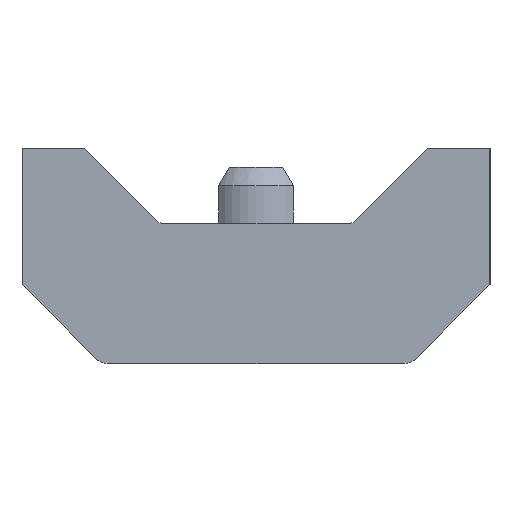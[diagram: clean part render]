
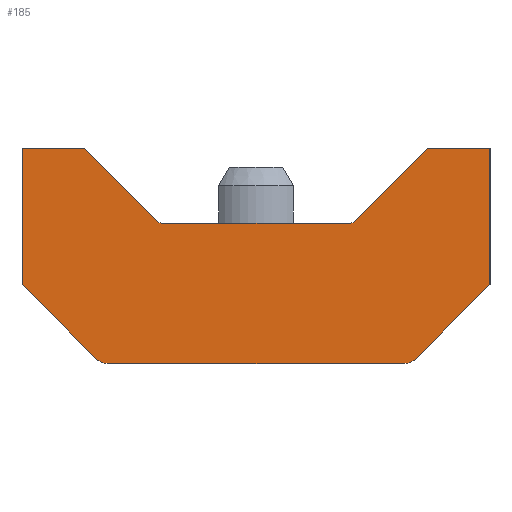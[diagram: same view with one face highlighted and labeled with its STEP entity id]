
A CAD part, left-side view. The second image highlights one B-rep face of the part: STEP entity #185.
In plain terms, the highlighted planar face has unit normal (-1, 0, 0).
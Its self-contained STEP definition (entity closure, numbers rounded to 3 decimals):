
#185=ADVANCED_FACE('Solid.1',(#385),#386,.F.);
#385=FACE_OUTER_BOUND('',#594,.T.);
#386=PLANE('',#595);
#594=EDGE_LOOP('',(#1056,#1057,#1058,#1059,#1060,#1061,#1062,#1063,#1064,#1065,#1066,#1067,#1068,#1069));
#595=AXIS2_PLACEMENT_3D('',#1070,#1071,#1072);
#1056=ORIENTED_EDGE('',*,*,#1370,.F.);
#1057=ORIENTED_EDGE('',*,*,#1377,.F.);
#1058=ORIENTED_EDGE('',*,*,#1375,.F.);
#1059=ORIENTED_EDGE('',*,*,#1365,.F.);
#1060=ORIENTED_EDGE('',*,*,#1363,.F.);
#1061=ORIENTED_EDGE('',*,*,#1298,.F.);
#1062=ORIENTED_EDGE('',*,*,#1303,.F.);
#1063=ORIENTED_EDGE('',*,*,#1343,.F.);
#1064=ORIENTED_EDGE('',*,*,#1348,.T.);
#1065=ORIENTED_EDGE('',*,*,#1355,.F.);
#1066=ORIENTED_EDGE('',*,*,#1359,.T.);
#1067=ORIENTED_EDGE('',*,*,#1352,.F.);
#1068=ORIENTED_EDGE('',*,*,#1289,.F.);
#1069=ORIENTED_EDGE('',*,*,#1294,.F.);
#1070=CARTESIAN_POINT('',(-148.0,0.0,0.0));
#1071=DIRECTION('',(1.0,0.0,0.0));
#1072=DIRECTION('',(0.0,1.0,0.0));
#1289=EDGE_CURVE('',#1560,#1562,#1563,.F.);
#1294=EDGE_CURVE('',#1569,#1560,#1571,.F.);
#1298=EDGE_CURVE('',#1575,#1577,#1578,.F.);
#1303=EDGE_CURVE('',#1584,#1575,#1586,.F.);
#1343=EDGE_CURVE('',#1634,#1584,#1637,.F.);
#1348=EDGE_CURVE('',#1634,#1642,#1644,.T.);
#1352=EDGE_CURVE('',#1562,#1646,#1650,.F.);
#1355=EDGE_CURVE('',#1652,#1642,#1655,.F.);
#1359=EDGE_CURVE('',#1652,#1646,#1659,.T.);
#1363=EDGE_CURVE('',#1577,#1662,#1665,.F.);
#1365=EDGE_CURVE('',#1662,#1667,#1668,.T.);
#1370=EDGE_CURVE('',#1674,#1569,#1676,.F.);
#1375=EDGE_CURVE('',#1667,#1680,#1683,.F.);
#1377=EDGE_CURVE('',#1680,#1674,#1685,.T.);
#1560=VERTEX_POINT('',#1910);
#1562=VERTEX_POINT('',#1913);
#1563=LINE('',#1914,#1915);
#1569=VERTEX_POINT('',#1923);
#1571=LINE('',#1926,#1927);
#1575=VERTEX_POINT('',#1932);
#1577=VERTEX_POINT('',#1935);
#1578=LINE('',#1936,#1937);
#1584=VERTEX_POINT('',#1945);
#1586=LINE('',#1948,#1949);
#1634=VERTEX_POINT('',#2006);
#1637=LINE('',#2010,#2011);
#1642=VERTEX_POINT('',#2017);
#1644=CIRCLE('',#2020,1.0);
#1646=VERTEX_POINT('',#2022);
#1650=LINE('',#2028,#2029);
#1652=VERTEX_POINT('',#2031);
#1655=LINE('',#2035,#2036);
#1659=CIRCLE('',#2041,1.);
#1662=VERTEX_POINT('',#2044);
#1665=LINE('',#2049,#2050);
#1667=VERTEX_POINT('',#2052);
#1668=CIRCLE('',#2053,2.0);
#1674=VERTEX_POINT('',#2060);
#1676=LINE('',#2063,#2064);
#1680=VERTEX_POINT('',#2069);
#1683=LINE('',#2074,#2075);
#1685=CIRCLE('',#2077,2.0);
#1910=CARTESIAN_POINT('',(-148.0,25.0,-17.0));
#1913=CARTESIAN_POINT('',(-148.0,18.355,-17.0));
#1914=CARTESIAN_POINT('',(-148.0,21.678,-17.0));
#1915=VECTOR('',#2312,1.0);
#1923=CARTESIAN_POINT('',(-148.0,25.0,-31.569));
#1926=CARTESIAN_POINT('',(-148.0,25.0,-24.284));
#1927=VECTOR('',#2316,1.0);
#1932=CARTESIAN_POINT('',(-148.0,-25.0,-17.0));
#1935=CARTESIAN_POINT('',(-148.0,-25.0,-31.569));
#1936=CARTESIAN_POINT('',(-148.0,-25.0,-24.284));
#1937=VECTOR('',#2319,1.0);
#1945=CARTESIAN_POINT('',(-148.0,-18.355,-17.0));
#1948=CARTESIAN_POINT('',(-148.0,-21.678,-17.0));
#1949=VECTOR('',#2323,1.0);
#2006=CARTESIAN_POINT('',(-148.0,-10.648,-24.707));
#2010=CARTESIAN_POINT('',(-148.0,-14.502,-20.854));
#2011=VECTOR('',#2382,1.0);
#2017=CARTESIAN_POINT('',(-148.0,-9.941,-25.0));
#2020=AXIS2_PLACEMENT_3D('',#2388,#2389,#2390);
#2022=CARTESIAN_POINT('',(-148.0,10.648,-24.707));
#2028=CARTESIAN_POINT('',(-148.0,14.502,-20.854));
#2029=VECTOR('',#2393,1.0);
#2031=CARTESIAN_POINT('',(-148.0,9.941,-25.0));
#2035=CARTESIAN_POINT('',(-148.0,0.,-25.0));
#2036=VECTOR('',#2395,1.0);
#2041=AXIS2_PLACEMENT_3D('',#2400,#2401,#2402);
#2044=CARTESIAN_POINT('',(-148.0,-17.154,-39.414));
#2049=CARTESIAN_POINT('',(-148.0,-21.077,-35.491));
#2050=VECTOR('',#2405,1.0);
#2052=CARTESIAN_POINT('',(-148.0,-15.74,-40.0));
#2053=AXIS2_PLACEMENT_3D('',#2406,#2407,#2408);
#2060=CARTESIAN_POINT('',(-148.0,17.154,-39.414));
#2063=CARTESIAN_POINT('',(-148.0,21.077,-35.491));
#2064=VECTOR('',#2414,1.0);
#2069=CARTESIAN_POINT('',(-148.0,15.74,-40.0));
#2074=CARTESIAN_POINT('',(-148.0,0.,-40.0));
#2075=VECTOR('',#2418,1.0);
#2077=AXIS2_PLACEMENT_3D('',#2419,#2420,#2421);
#2312=DIRECTION('',(0.0,1.0,0.0));
#2316=DIRECTION('',(0.0,0.0,-1.0));
#2319=DIRECTION('',(0.0,0.0,1.0));
#2323=DIRECTION('',(0.0,1.0,0.0));
#2382=DIRECTION('',(0.0,0.707,-0.707));
#2388=CARTESIAN_POINT('',(-148.0,-9.941,-24.0));
#2389=DIRECTION('',(1.0,0.0,0.0));
#2390=DIRECTION('',(0.0,1.0,0.0));
#2393=DIRECTION('',(0.0,0.707,0.707));
#2395=DIRECTION('',(0.0,1.0,0.0));
#2400=CARTESIAN_POINT('',(-148.0,9.941,-24.0));
#2401=DIRECTION('',(1.0,0.0,0.0));
#2402=DIRECTION('',(0.0,1.0,0.0));
#2405=DIRECTION('',(0.0,-0.707,0.707));
#2406=CARTESIAN_POINT('',(-148.0,-15.74,-38.0));
#2407=DIRECTION('',(1.0,0.0,0.0));
#2408=DIRECTION('',(0.0,1.0,0.0));
#2414=DIRECTION('',(0.0,-0.707,-0.707));
#2418=DIRECTION('',(0.0,-1.0,0.0));
#2419=CARTESIAN_POINT('',(-148.0,15.74,-38.0));
#2420=DIRECTION('',(1.0,0.0,0.0));
#2421=DIRECTION('',(0.0,1.0,0.0));
